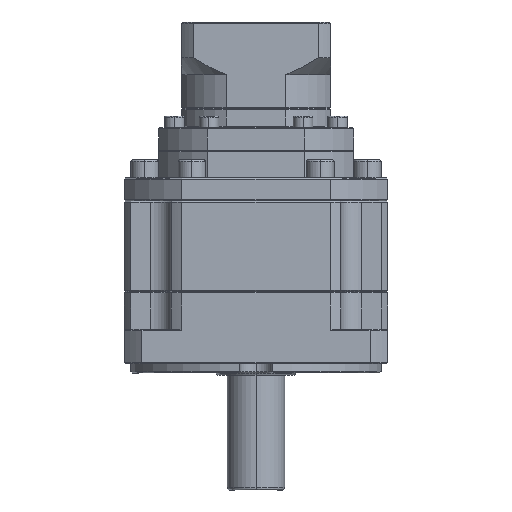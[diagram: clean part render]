
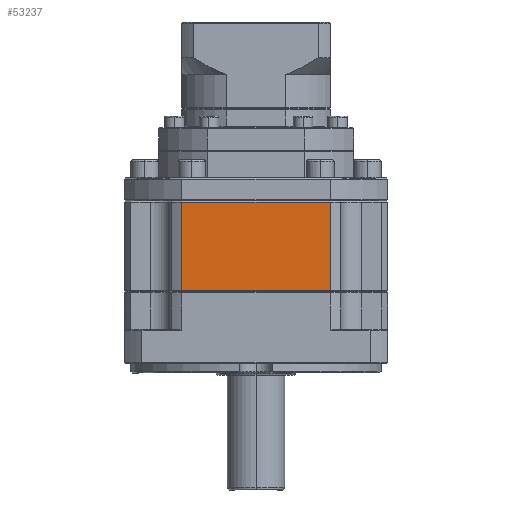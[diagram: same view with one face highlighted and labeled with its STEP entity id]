
A CAD part, front view. The second image highlights one B-rep face of the part: STEP entity #53237.
In plain terms, the highlighted planar face has unit normal (0, -1, 0).
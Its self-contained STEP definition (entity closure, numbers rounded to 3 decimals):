
#5781 = PLANE ( 'NONE',  #23258 ) ;
#5986 = DIRECTION ( 'NONE',  ( -1., 0., 0. ) ) ;
#10228 = DIRECTION ( 'NONE',  ( 0., 0., 1. ) ) ;
#13456 = VERTEX_POINT ( 'NONE', #35008 ) ;
#14517 = LINE ( 'NONE', #53445, #36707 ) ;
#21040 = FACE_OUTER_BOUND ( 'NONE', #48713, .T. ) ;
#23258 = AXIS2_PLACEMENT_3D ( 'NONE', #25424, #91910, #34883 ) ;
#25424 = CARTESIAN_POINT ( 'NONE',  ( -17.094, -34.627, -36.634 ) ) ;
#29458 = EDGE_CURVE ( 'NONE', #83683, #72719, #109008, .T. ) ;
#34883 = DIRECTION ( 'NONE',  ( -1., 0., 0. ) ) ;
#35008 = CARTESIAN_POINT ( 'NONE',  ( -106.994, -34.627, -75.634 ) ) ;
#36055 = VECTOR ( 'NONE', #65104, 1000. ) ;
#36192 = VERTEX_POINT ( 'NONE', #117718 ) ;
#36707 = VECTOR ( 'NONE', #5986, 1000. ) ;
#42736 = CARTESIAN_POINT ( 'NONE',  ( -106.994, -34.627, -37.134 ) ) ;
#46307 = LINE ( 'NONE', #51344, #119348 ) ;
#48713 = EDGE_LOOP ( 'NONE', ( #53569, #89458, #80846, #113219 ) ) ;
#51344 = CARTESIAN_POINT ( 'NONE',  ( -42.194, -34.627, -270.96 ) ) ;
#53237 = ADVANCED_FACE ( 'NONE', ( #21040 ), #5781, .F. ) ;
#53445 = CARTESIAN_POINT ( 'NONE',  ( -17.094, -34.627, -75.634 ) ) ;
#53569 = ORIENTED_EDGE ( 'NONE', *, *, #66742, .F. ) ;
#65104 = DIRECTION ( 'NONE',  ( 1., 0., 0. ) ) ;
#65142 = EDGE_CURVE ( 'NONE', #13456, #83683, #67338, .T. ) ;
#66340 = CARTESIAN_POINT ( 'NONE',  ( -74.594, -34.627, -37.134 ) ) ;
#66742 = EDGE_CURVE ( 'NONE', #36192, #13456, #14517, .T. ) ;
#67338 = LINE ( 'NONE', #76840, #117898 ) ;
#71563 = CARTESIAN_POINT ( 'NONE',  ( -42.194, -34.627, -37.134 ) ) ;
#72719 = VERTEX_POINT ( 'NONE', #71563 ) ;
#76840 = CARTESIAN_POINT ( 'NONE',  ( -106.994, -34.627, -36.634 ) ) ;
#80846 = ORIENTED_EDGE ( 'NONE', *, *, #29458, .F. ) ;
#83683 = VERTEX_POINT ( 'NONE', #42736 ) ;
#89458 = ORIENTED_EDGE ( 'NONE', *, *, #119804, .F. ) ;
#91910 = DIRECTION ( 'NONE',  ( 0., 1., 0. ) ) ;
#109008 = LINE ( 'NONE', #66340, #36055 ) ;
#113219 = ORIENTED_EDGE ( 'NONE', *, *, #65142, .F. ) ;
#117718 = CARTESIAN_POINT ( 'NONE',  ( -42.194, -34.627, -75.634 ) ) ;
#117880 = DIRECTION ( 'NONE',  ( 0., 0., -1. ) ) ;
#117898 = VECTOR ( 'NONE', #10228, 1000. ) ;
#119348 = VECTOR ( 'NONE', #117880, 1000. ) ;
#119804 = EDGE_CURVE ( 'NONE', #72719, #36192, #46307, .T. ) ;
